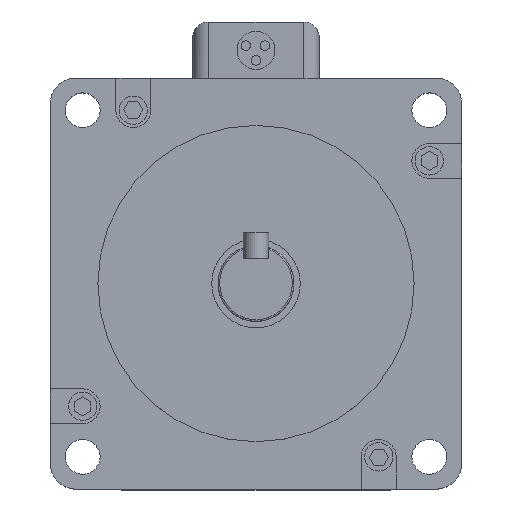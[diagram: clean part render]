
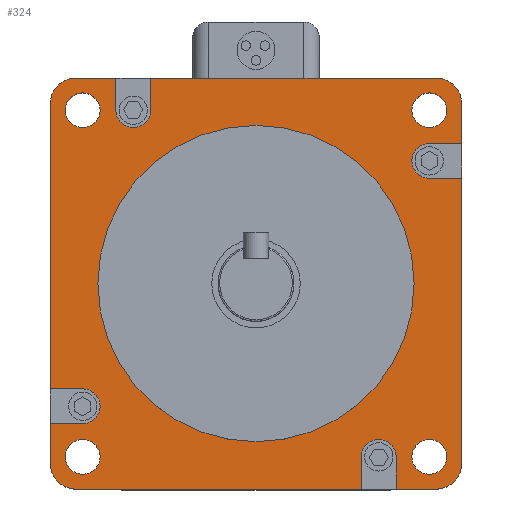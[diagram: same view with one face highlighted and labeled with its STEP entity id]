
A CAD part, top view. The second image highlights one B-rep face of the part: STEP entity #324.
In plain terms, the highlighted planar face has unit normal (0, 0, 1).
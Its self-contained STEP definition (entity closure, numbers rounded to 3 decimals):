
#172=FACE_BOUND('',#687,.T.);
#173=FACE_BOUND('',#688,.T.);
#174=FACE_BOUND('',#689,.T.);
#175=FACE_BOUND('',#690,.T.);
#176=FACE_BOUND('',#691,.T.);
#177=FACE_BOUND('',#692,.T.);
#251=CIRCLE('',#2621,5.5);
#252=CIRCLE('',#2622,5.5);
#253=CIRCLE('',#2623,50.);
#254=CIRCLE('',#2624,5.5);
#255=CIRCLE('',#2625,5.5);
#256=CIRCLE('',#2626,8.);
#257=CIRCLE('',#2627,5.5);
#258=CIRCLE('',#2628,8.);
#259=CIRCLE('',#2629,5.5);
#260=CIRCLE('',#2630,8.);
#261=CIRCLE('',#2631,5.5);
#262=CIRCLE('',#2632,8.);
#263=CIRCLE('',#2633,5.5);
#324=ADVANCED_FACE('',(#172,#173,#174,#175,#176,#177),#469,.T.);
#469=PLANE('',#2634);
#687=EDGE_LOOP('',(#913));
#688=EDGE_LOOP('',(#914));
#689=EDGE_LOOP('',(#915));
#690=EDGE_LOOP('',(#916));
#691=EDGE_LOOP('',(#917));
#692=EDGE_LOOP('',(#918,#919,#920,#921,#922,#923,#924,#925,#926,#927,#928,
#929,#930,#931,#932,#933,#934,#935,#936,#937,#938,#939,#940,#941));
#913=ORIENTED_EDGE('',*,*,#1820,.T.);
#914=ORIENTED_EDGE('',*,*,#1821,.F.);
#915=ORIENTED_EDGE('',*,*,#1822,.F.);
#916=ORIENTED_EDGE('',*,*,#1823,.F.);
#917=ORIENTED_EDGE('',*,*,#1824,.F.);
#918=ORIENTED_EDGE('',*,*,#1825,.T.);
#919=ORIENTED_EDGE('',*,*,#1826,.T.);
#920=ORIENTED_EDGE('',*,*,#1827,.T.);
#921=ORIENTED_EDGE('',*,*,#1828,.F.);
#922=ORIENTED_EDGE('',*,*,#1829,.F.);
#923=ORIENTED_EDGE('',*,*,#1830,.F.);
#924=ORIENTED_EDGE('',*,*,#1831,.T.);
#925=ORIENTED_EDGE('',*,*,#1832,.T.);
#926=ORIENTED_EDGE('',*,*,#1833,.T.);
#927=ORIENTED_EDGE('',*,*,#1834,.F.);
#928=ORIENTED_EDGE('',*,*,#1835,.F.);
#929=ORIENTED_EDGE('',*,*,#1836,.F.);
#930=ORIENTED_EDGE('',*,*,#1837,.T.);
#931=ORIENTED_EDGE('',*,*,#1838,.T.);
#932=ORIENTED_EDGE('',*,*,#1839,.T.);
#933=ORIENTED_EDGE('',*,*,#1840,.T.);
#934=ORIENTED_EDGE('',*,*,#1841,.T.);
#935=ORIENTED_EDGE('',*,*,#1842,.T.);
#936=ORIENTED_EDGE('',*,*,#1843,.T.);
#937=ORIENTED_EDGE('',*,*,#1844,.T.);
#938=ORIENTED_EDGE('',*,*,#1845,.T.);
#939=ORIENTED_EDGE('',*,*,#1846,.F.);
#940=ORIENTED_EDGE('',*,*,#1847,.F.);
#941=ORIENTED_EDGE('',*,*,#1848,.F.);
#1587=VERTEX_POINT('',#3645);
#1588=VERTEX_POINT('',#3647);
#1589=VERTEX_POINT('',#3649);
#1590=VERTEX_POINT('',#3651);
#1591=VERTEX_POINT('',#3653);
#1592=VERTEX_POINT('',#3655);
#1593=VERTEX_POINT('',#3656);
#1594=VERTEX_POINT('',#3658);
#1595=VERTEX_POINT('',#3660);
#1596=VERTEX_POINT('',#3662);
#1597=VERTEX_POINT('',#3664);
#1598=VERTEX_POINT('',#3666);
#1599=VERTEX_POINT('',#3668);
#1600=VERTEX_POINT('',#3670);
#1601=VERTEX_POINT('',#3672);
#1602=VERTEX_POINT('',#3674);
#1603=VERTEX_POINT('',#3676);
#1604=VERTEX_POINT('',#3678);
#1605=VERTEX_POINT('',#3680);
#1606=VERTEX_POINT('',#3682);
#1607=VERTEX_POINT('',#3684);
#1608=VERTEX_POINT('',#3686);
#1609=VERTEX_POINT('',#3688);
#1610=VERTEX_POINT('',#3690);
#1611=VERTEX_POINT('',#3692);
#1612=VERTEX_POINT('',#3694);
#1613=VERTEX_POINT('',#3696);
#1614=VERTEX_POINT('',#3698);
#1615=VERTEX_POINT('',#3700);
#1820=EDGE_CURVE('',#1587,#1587,#251,.T.);
#1821=EDGE_CURVE('',#1588,#1588,#252,.T.);
#1822=EDGE_CURVE('',#1589,#1589,#253,.T.);
#1823=EDGE_CURVE('',#1590,#1590,#254,.T.);
#1824=EDGE_CURVE('',#1591,#1591,#255,.T.);
#1825=EDGE_CURVE('',#1592,#1593,#2141,.T.);
#1826=EDGE_CURVE('',#1593,#1594,#256,.T.);
#1827=EDGE_CURVE('',#1594,#1595,#2142,.T.);
#1828=EDGE_CURVE('',#1596,#1595,#2143,.T.);
#1829=EDGE_CURVE('',#1597,#1596,#257,.T.);
#1830=EDGE_CURVE('',#1598,#1597,#2144,.T.);
#1831=EDGE_CURVE('',#1598,#1599,#2145,.T.);
#1832=EDGE_CURVE('',#1599,#1600,#258,.T.);
#1833=EDGE_CURVE('',#1600,#1601,#2146,.T.);
#1834=EDGE_CURVE('',#1602,#1601,#2147,.T.);
#1835=EDGE_CURVE('',#1603,#1602,#259,.T.);
#1836=EDGE_CURVE('',#1604,#1603,#2148,.T.);
#1837=EDGE_CURVE('',#1604,#1605,#2149,.T.);
#1838=EDGE_CURVE('',#1605,#1606,#260,.T.);
#1839=EDGE_CURVE('',#1606,#1607,#2150,.T.);
#1840=EDGE_CURVE('',#1607,#1608,#2151,.T.);
#1841=EDGE_CURVE('',#1608,#1609,#261,.T.);
#1842=EDGE_CURVE('',#1609,#1610,#2152,.T.);
#1843=EDGE_CURVE('',#1610,#1611,#2153,.T.);
#1844=EDGE_CURVE('',#1611,#1612,#262,.T.);
#1845=EDGE_CURVE('',#1612,#1613,#2154,.T.);
#1846=EDGE_CURVE('',#1614,#1613,#2155,.T.);
#1847=EDGE_CURVE('',#1615,#1614,#263,.T.);
#1848=EDGE_CURVE('',#1592,#1615,#2156,.T.);
#2141=LINE('',#3654,#2387);
#2142=LINE('',#3659,#2388);
#2143=LINE('',#3661,#2389);
#2144=LINE('',#3665,#2390);
#2145=LINE('',#3667,#2391);
#2146=LINE('',#3671,#2392);
#2147=LINE('',#3673,#2393);
#2148=LINE('',#3677,#2394);
#2149=LINE('',#3679,#2395);
#2150=LINE('',#3683,#2396);
#2151=LINE('',#3685,#2397);
#2152=LINE('',#3689,#2398);
#2153=LINE('',#3691,#2399);
#2154=LINE('',#3695,#2400);
#2155=LINE('',#3697,#2401);
#2156=LINE('',#3701,#2402);
#2387=VECTOR('',#2922,1.);
#2388=VECTOR('',#2925,1.);
#2389=VECTOR('',#2926,1.);
#2390=VECTOR('',#2929,1.);
#2391=VECTOR('',#2930,1.);
#2392=VECTOR('',#2933,1.);
#2393=VECTOR('',#2934,1.);
#2394=VECTOR('',#2937,1.);
#2395=VECTOR('',#2938,1.);
#2396=VECTOR('',#2941,1.);
#2397=VECTOR('',#2942,1.);
#2398=VECTOR('',#2945,1.);
#2399=VECTOR('',#2946,1.);
#2400=VECTOR('',#2949,1.);
#2401=VECTOR('',#2950,1.);
#2402=VECTOR('',#2953,1.);
#2621=AXIS2_PLACEMENT_3D('',#3644,#2912,#2913);
#2622=AXIS2_PLACEMENT_3D('',#3646,#2914,#2915);
#2623=AXIS2_PLACEMENT_3D('',#3648,#2916,#2917);
#2624=AXIS2_PLACEMENT_3D('',#3650,#2918,#2919);
#2625=AXIS2_PLACEMENT_3D('',#3652,#2920,#2921);
#2626=AXIS2_PLACEMENT_3D('',#3657,#2923,#2924);
#2627=AXIS2_PLACEMENT_3D('',#3663,#2927,#2928);
#2628=AXIS2_PLACEMENT_3D('',#3669,#2931,#2932);
#2629=AXIS2_PLACEMENT_3D('',#3675,#2935,#2936);
#2630=AXIS2_PLACEMENT_3D('',#3681,#2939,#2940);
#2631=AXIS2_PLACEMENT_3D('',#3687,#2943,#2944);
#2632=AXIS2_PLACEMENT_3D('',#3693,#2947,#2948);
#2633=AXIS2_PLACEMENT_3D('',#3699,#2951,#2952);
#2634=AXIS2_PLACEMENT_3D('',#3702,#2954,#2955);
#2912=DIRECTION('',(0.,0.,-1.));
#2913=DIRECTION('',(1.,0.,0.));
#2914=DIRECTION('',(0.,0.,1.));
#2915=DIRECTION('',(1.,0.,0.));
#2916=DIRECTION('',(0.,0.,1.));
#2917=DIRECTION('',(1.,0.,0.));
#2918=DIRECTION('',(0.,0.,1.));
#2919=DIRECTION('',(1.,0.,0.));
#2920=DIRECTION('',(0.,0.,1.));
#2921=DIRECTION('',(1.,0.,0.));
#2922=DIRECTION('',(-1.,0.,0.));
#2923=DIRECTION('',(0.,0.,1.));
#2924=DIRECTION('',(1.,0.,0.));
#2925=DIRECTION('',(0.,-1.,0.));
#2926=DIRECTION('',(-1.,0.,0.));
#2927=DIRECTION('',(0.,0.,1.));
#2928=DIRECTION('',(0.,1.,0.));
#2929=DIRECTION('',(1.,0.,0.));
#2930=DIRECTION('',(0.,-1.,0.));
#2931=DIRECTION('',(0.,0.,1.));
#2932=DIRECTION('',(1.,0.,0.));
#2933=DIRECTION('',(1.,0.,0.));
#2934=DIRECTION('',(0.,-1.,0.));
#2935=DIRECTION('',(0.,0.,1.));
#2936=DIRECTION('',(-1.,0.,0.));
#2937=DIRECTION('',(0.,1.,0.));
#2938=DIRECTION('',(1.,0.,0.));
#2939=DIRECTION('',(0.,0.,1.));
#2940=DIRECTION('',(1.,0.,0.));
#2941=DIRECTION('',(0.,1.,0.));
#2942=DIRECTION('',(-1.,0.,0.));
#2943=DIRECTION('',(0.,0.,-1.));
#2944=DIRECTION('',(0.,-1.,0.));
#2945=DIRECTION('',(1.,0.,0.));
#2946=DIRECTION('',(0.,1.,0.));
#2947=DIRECTION('',(0.,0.,1.));
#2948=DIRECTION('',(1.,0.,0.));
#2949=DIRECTION('',(-1.,0.,0.));
#2950=DIRECTION('',(0.,1.,0.));
#2951=DIRECTION('',(0.,0.,1.));
#2952=DIRECTION('',(1.,0.,0.));
#2953=DIRECTION('',(0.,-1.,0.));
#2954=DIRECTION('',(0.,0.,1.));
#2955=DIRECTION('',(1.,0.,0.));
#3644=CARTESIAN_POINT('',(-54.8,-54.8,0.));
#3645=CARTESIAN_POINT('',(-49.3,-54.8,0.));
#3646=CARTESIAN_POINT('',(54.8,54.8,0.));
#3647=CARTESIAN_POINT('',(60.3,54.8,0.));
#3648=CARTESIAN_POINT('',(0.,0.,0.));
#3649=CARTESIAN_POINT('',(50.,0.,0.));
#3650=CARTESIAN_POINT('',(54.8,-54.8,0.));
#3651=CARTESIAN_POINT('',(60.3,-54.8,0.));
#3652=CARTESIAN_POINT('',(-54.8,54.8,0.));
#3653=CARTESIAN_POINT('',(-49.3,54.8,0.));
#3654=CARTESIAN_POINT('',(65.,65.,0.));
#3655=CARTESIAN_POINT('',(-44.3,65.,0.));
#3656=CARTESIAN_POINT('',(-57.,65.,0.));
#3657=CARTESIAN_POINT('',(-57.,57.,0.));
#3658=CARTESIAN_POINT('',(-65.,57.,0.));
#3659=CARTESIAN_POINT('',(-65.,65.,0.));
#3660=CARTESIAN_POINT('',(-65.,-33.3,0.));
#3661=CARTESIAN_POINT('',(-54.8,-33.3,0.));
#3662=CARTESIAN_POINT('',(-54.8,-33.3,0.));
#3663=CARTESIAN_POINT('',(-54.8,-38.8,0.));
#3664=CARTESIAN_POINT('',(-54.8,-44.3,0.));
#3665=CARTESIAN_POINT('',(-65.,-44.3,0.));
#3666=CARTESIAN_POINT('',(-65.,-44.3,0.));
#3667=CARTESIAN_POINT('',(-65.,65.,0.));
#3668=CARTESIAN_POINT('',(-65.,-57.,0.));
#3669=CARTESIAN_POINT('',(-57.,-57.,0.));
#3670=CARTESIAN_POINT('',(-57.,-65.,0.));
#3671=CARTESIAN_POINT('',(-65.,-65.,0.));
#3672=CARTESIAN_POINT('',(33.3,-65.,0.));
#3673=CARTESIAN_POINT('',(33.3,-54.8,0.));
#3674=CARTESIAN_POINT('',(33.3,-54.8,0.));
#3675=CARTESIAN_POINT('',(38.8,-54.8,0.));
#3676=CARTESIAN_POINT('',(44.3,-54.8,0.));
#3677=CARTESIAN_POINT('',(44.3,-65.,0.));
#3678=CARTESIAN_POINT('',(44.3,-65.,0.));
#3679=CARTESIAN_POINT('',(-65.,-65.,0.));
#3680=CARTESIAN_POINT('',(57.,-65.,0.));
#3681=CARTESIAN_POINT('',(57.,-57.,0.));
#3682=CARTESIAN_POINT('',(65.,-57.,0.));
#3683=CARTESIAN_POINT('',(65.,-65.,0.));
#3684=CARTESIAN_POINT('',(65.,33.3,0.));
#3685=CARTESIAN_POINT('',(65.,33.3,0.));
#3686=CARTESIAN_POINT('',(54.8,33.3,0.));
#3687=CARTESIAN_POINT('',(54.8,38.8,0.));
#3688=CARTESIAN_POINT('',(54.8,44.3,0.));
#3689=CARTESIAN_POINT('',(54.8,44.3,0.));
#3690=CARTESIAN_POINT('',(65.,44.3,0.));
#3691=CARTESIAN_POINT('',(65.,-65.,0.));
#3692=CARTESIAN_POINT('',(65.,57.,0.));
#3693=CARTESIAN_POINT('',(57.,57.,0.));
#3694=CARTESIAN_POINT('',(57.,65.,0.));
#3695=CARTESIAN_POINT('',(65.,65.,0.));
#3696=CARTESIAN_POINT('',(-33.3,65.,0.));
#3697=CARTESIAN_POINT('',(-33.3,54.8,0.));
#3698=CARTESIAN_POINT('',(-33.3,54.8,0.));
#3699=CARTESIAN_POINT('',(-38.8,54.8,0.));
#3700=CARTESIAN_POINT('',(-44.3,54.8,0.));
#3701=CARTESIAN_POINT('',(-44.3,65.,0.));
#3702=CARTESIAN_POINT('',(65.,-65.,0.));
